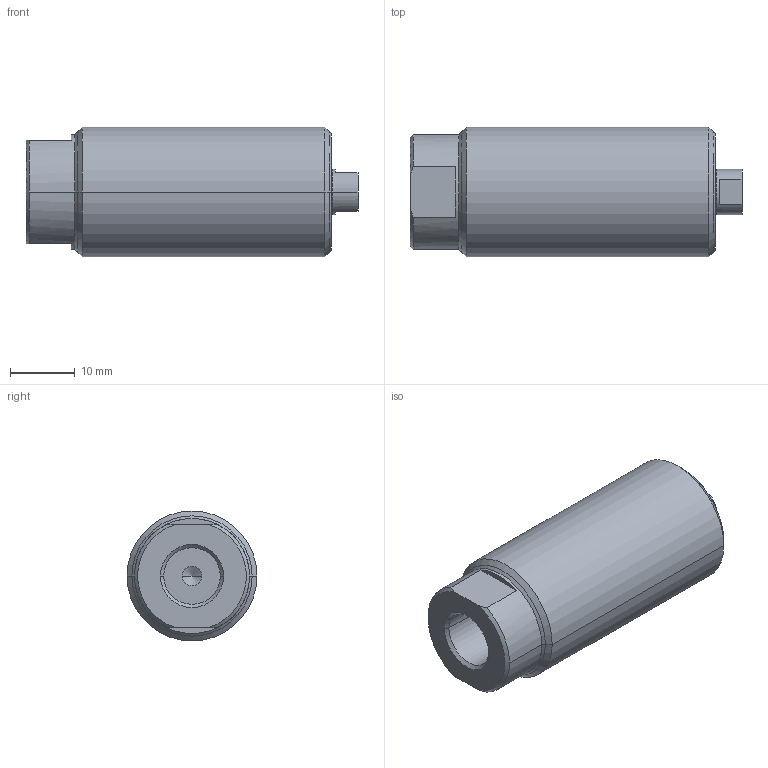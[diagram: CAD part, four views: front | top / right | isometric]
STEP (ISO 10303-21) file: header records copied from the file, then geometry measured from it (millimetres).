
FILE_DESCRIPTION((''),'2;1');
FILE_NAME('CST-572_ASM','2010-11-22T',('chad.steele'),(''),'PRO/ENGINEER BY PARAMETRIC TECHNOLOGY CORPORATION, 2010040','PRO/ENGINEER BY PARAMETRIC TECHNOLOGY CORPORATION, 2010040','');
FILE_SCHEMA(('CONFIG_CONTROL_DESIGN'));
Length unit declared in the file: millimetre
Products named in the file (4): DC6045030; DC6036044; PA2120040; CST-572_ASM
Assembly tree (3 placements, depth 2):
  CST-572_ASM
    DC6045030
    DC6036044
    PA2120040
Bounding box: 51.1 x 20 x 20 mm (x, y, z)
Volume: 11427.5 mm3; surface area: 11017.8 mm2
Topology: 3 solids, 8 shells, 106 faces, 248 edges, 152 vertices
Faces by surface type: cylinder 40, plane 28, cone 28, torus 10
Entity records: 3256 total; most frequent: CARTESIAN_POINT 633, DIRECTION 602, ORIENTED_EDGE 468, AXIS2_PLACEMENT_3D 253, EDGE_CURVE 244, VERTEX_POINT 152, CIRCLE 134, EDGE_LOOP 118
